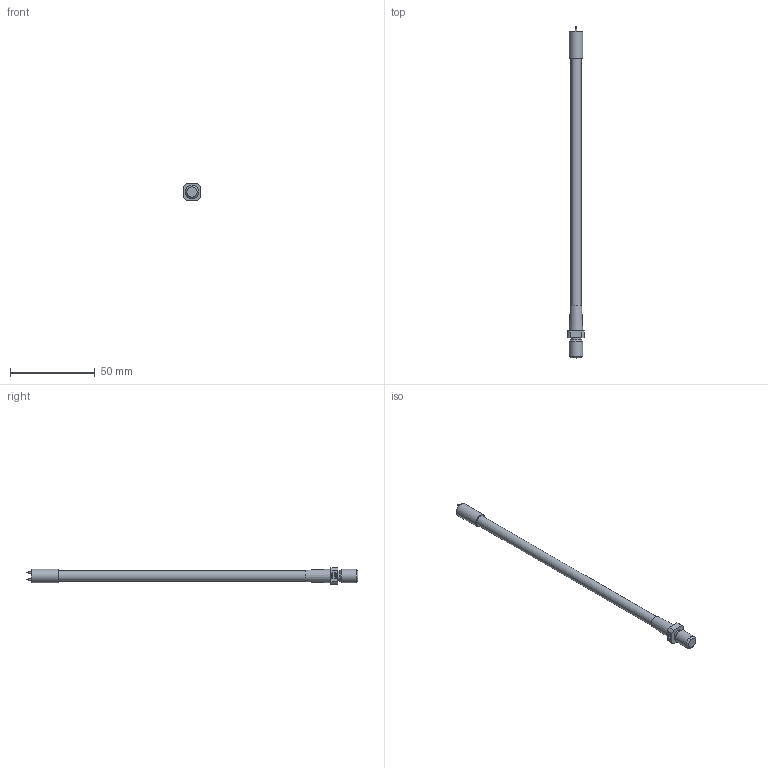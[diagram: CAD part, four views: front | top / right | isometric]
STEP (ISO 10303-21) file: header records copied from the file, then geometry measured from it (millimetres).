
FILE_DESCRIPTION(('STEP AP203'), '1');
FILE_NAME('ﾊﾌﾍﾒ.794191.001 ﾐﾐﾝﾑ-80-ﾐ2', '', ('UNSPECIFIED'), ('UNSPECIFIED'), 'C3D Converter', 'C3D Toolkit', '');
FILE_SCHEMA(('CONFIG_CONTROL_DESIGN'));
Length unit declared in the file: millimetre
Products named in the file (1): КМНТ.794191.001
Bounding box: 10 x 196 x 10 mm (x, y, z)
Volume: 6407.2 mm3; surface area: 4759.9 mm2
Topology: 447 solids, 447 shells, 3311 faces, 5419 edges, 3015 vertices
Faces by surface type: cylinder 1417, plane 962, torus 895, extrusion 32, cone 5
Full cylindrical faces by diameter (mm): 0.02 x1335, 0.78 x3, 1 x3, 2 x1, 3 x1, 6 x2, 6.2 x1, 8 x2
Entity records: 93168 total; most frequent: DIRECTION 12538, CARTESIAN_POINT 9722, ORIENTED_EDGE 6342, AXIS2_PLACEMENT_3D 6123, EDGE_LOOP 5574, FACE_OUTER_BOUND 4491, COLOUR_RGB 3758, FILL_AREA_STYLE_COLOUR 3758
